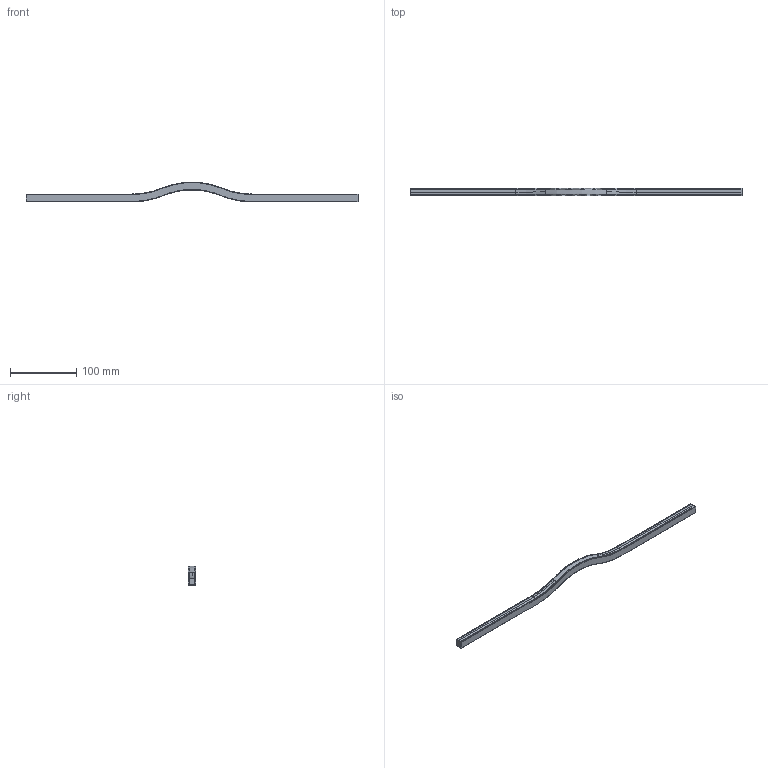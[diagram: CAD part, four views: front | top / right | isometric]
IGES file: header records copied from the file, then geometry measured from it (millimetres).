
Start section: Comment
Global section: file name: 8220.igs; native system: Parasolid(12.0); preprocessor: Pariges 4.4; author: Author; organization: Title; date: 20200903.174223; units: millimetre
Bounding box: 500 x 10.8 x 29.4 mm (x, y, z)
Surface area: 50036.2 mm2 (no closed solid volume)
Topology: 0 solids, 0 shells, 100 faces, 670 edges, 670 vertices
Faces by surface type: revolution 74, extrusion 26
